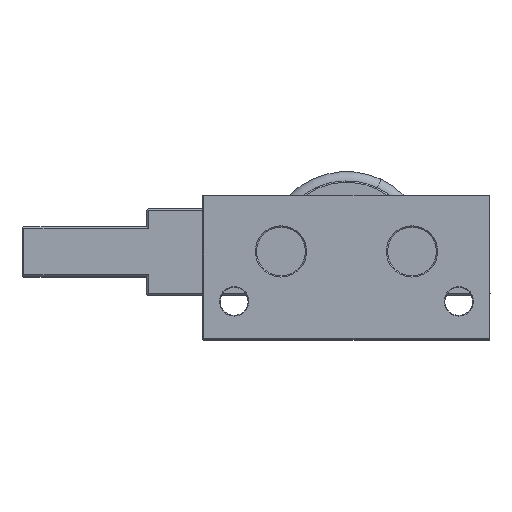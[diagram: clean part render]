
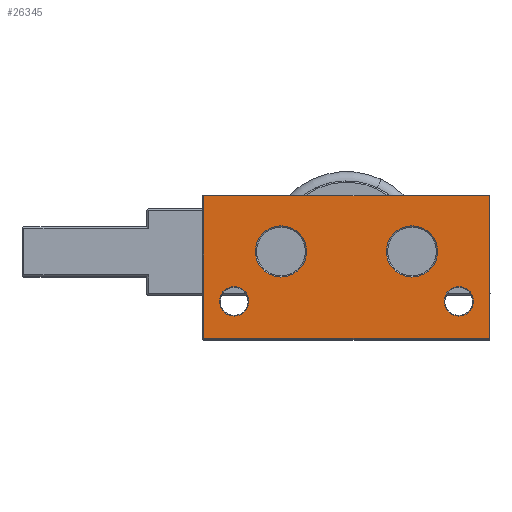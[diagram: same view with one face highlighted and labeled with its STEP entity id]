
A CAD part, top view. The second image highlights one B-rep face of the part: STEP entity #26345.
In plain terms, the highlighted planar face has unit normal (0, 0, 1).
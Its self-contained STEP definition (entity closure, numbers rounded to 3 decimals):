
#433 = DIRECTION ( 'NONE',  ( 0., 0., -1. ) ) ;
#578 = VECTOR ( 'NONE', #13726, 1000. ) ;
#749 = CARTESIAN_POINT ( 'NONE',  ( -18., 6., 120. ) ) ;
#1019 = CARTESIAN_POINT ( 'NONE',  ( -20.35, 6., 120. ) ) ;
#1797 = DIRECTION ( 'NONE',  ( 0., 0., -1. ) ) ;
#2261 = CARTESIAN_POINT ( 'NONE',  ( -22.9, 0.1, 120. ) ) ;
#2327 = FACE_OUTER_BOUND ( 'NONE', #6874, .T. ) ;
#2551 = ORIENTED_EDGE ( 'NONE', *, *, #26809, .T. ) ;
#2838 = CARTESIAN_POINT ( 'NONE',  ( -14.6, 14., 120. ) ) ;
#2895 = EDGE_CURVE ( 'NONE', #6082, #30914, #28503, .T. ) ;
#3278 = DIRECTION ( 'NONE',  ( 0., 0., -1. ) ) ;
#3307 = DIRECTION ( 'NONE',  ( 0., 0., -1. ) ) ;
#3483 = DIRECTION ( 'NONE',  ( -1., 0., 0. ) ) ;
#3704 = CARTESIAN_POINT ( 'NONE',  ( 22.9, 23., 120. ) ) ;
#4081 = VERTEX_POINT ( 'NONE', #2838 ) ;
#4136 = CARTESIAN_POINT ( 'NONE',  ( -22.9, 22.9, 120. ) ) ;
#4710 = CARTESIAN_POINT ( 'NONE',  ( 14.6, 14., 120. ) ) ;
#5023 = VERTEX_POINT ( 'NONE', #20085 ) ;
#5288 = LINE ( 'NONE', #9094, #578 ) ;
#5607 = ORIENTED_EDGE ( 'NONE', *, *, #33977, .T. ) ;
#6082 = VERTEX_POINT ( 'NONE', #30326 ) ;
#6138 = DIRECTION ( 'NONE',  ( -1., 0., 0. ) ) ;
#6256 = DIRECTION ( 'NONE',  ( 0., 0., -1. ) ) ;
#6294 = CARTESIAN_POINT ( 'NONE',  ( 10.5, 14., 120. ) ) ;
#6487 = ORIENTED_EDGE ( 'NONE', *, *, #33462, .T. ) ;
#6687 = EDGE_LOOP ( 'NONE', ( #29275, #17276 ) ) ;
#6733 = CARTESIAN_POINT ( 'NONE',  ( 10.5, 14., 120. ) ) ;
#6874 = EDGE_LOOP ( 'NONE', ( #17588, #26423, #15914, #18890 ) ) ;
#7195 = LINE ( 'NONE', #3704, #27856 ) ;
#7923 = EDGE_CURVE ( 'NONE', #31936, #34058, #5288, .T. ) ;
#8503 = AXIS2_PLACEMENT_3D ( 'NONE', #31122, #15007, #33824 ) ;
#8817 = AXIS2_PLACEMENT_3D ( 'NONE', #19487, #3278, #22159 ) ;
#9094 = CARTESIAN_POINT ( 'NONE',  ( -22.9, 0., 120. ) ) ;
#9454 = DIRECTION ( 'NONE',  ( -1., 0., 0. ) ) ;
#9470 = EDGE_CURVE ( 'NONE', #34058, #24507, #31460, .T. ) ;
#9589 = FACE_BOUND ( 'NONE', #35083, .T. ) ;
#9685 = EDGE_CURVE ( 'NONE', #21733, #27067, #28878, .T. ) ;
#10339 = EDGE_CURVE ( 'NONE', #34824, #5023, #27605, .T. ) ;
#11651 = CIRCLE ( 'NONE', #18985, 4.1 ) ;
#12764 = AXIS2_PLACEMENT_3D ( 'NONE', #749, #19695, #3483 ) ;
#12827 = AXIS2_PLACEMENT_3D ( 'NONE', #32733, #433, #19404 ) ;
#13118 = CARTESIAN_POINT ( 'NONE',  ( 22.9, 0.1, 120. ) ) ;
#13491 = DIRECTION ( 'NONE',  ( 0., 0., -1. ) ) ;
#13643 = EDGE_LOOP ( 'NONE', ( #5607, #25434 ) ) ;
#13726 = DIRECTION ( 'NONE',  ( 0., -1., 0. ) ) ;
#13823 = EDGE_CURVE ( 'NONE', #30914, #6082, #27913, .T. ) ;
#14619 = VERTEX_POINT ( 'NONE', #17096 ) ;
#14821 = CARTESIAN_POINT ( 'NONE',  ( 23., 0.1, 120. ) ) ;
#15007 = DIRECTION ( 'NONE',  ( 0., 0., -1. ) ) ;
#15914 = ORIENTED_EDGE ( 'NONE', *, *, #9470, .T. ) ;
#16797 = FACE_BOUND ( 'NONE', #6687, .T. ) ;
#17096 = CARTESIAN_POINT ( 'NONE',  ( -6.4, 14., 120. ) ) ;
#17276 = ORIENTED_EDGE ( 'NONE', *, *, #32623, .T. ) ;
#17497 = DIRECTION ( 'NONE',  ( 1., 0., 0. ) ) ;
#17588 = ORIENTED_EDGE ( 'NONE', *, *, #32370, .T. ) ;
#17619 = FACE_BOUND ( 'NONE', #13643, .T. ) ;
#17987 = VECTOR ( 'NONE', #18455, 1000. ) ;
#18058 = CARTESIAN_POINT ( 'NONE',  ( 18., 6., 120. ) ) ;
#18448 = FACE_BOUND ( 'NONE', #20558, .T. ) ;
#18455 = DIRECTION ( 'NONE',  ( -1., 0., 0. ) ) ;
#18890 = ORIENTED_EDGE ( 'NONE', *, *, #20051, .T. ) ;
#18985 = AXIS2_PLACEMENT_3D ( 'NONE', #19516, #3307, #22190 ) ;
#19404 = DIRECTION ( 'NONE',  ( -1., 0., 0. ) ) ;
#19487 = CARTESIAN_POINT ( 'NONE',  ( 18., 6., 120. ) ) ;
#19516 = CARTESIAN_POINT ( 'NONE',  ( -10.5, 14., 120. ) ) ;
#19590 = AXIS2_PLACEMENT_3D ( 'NONE', #6733, #25513, #9454 ) ;
#19695 = DIRECTION ( 'NONE',  ( 0., 0., -1. ) ) ;
#20051 = EDGE_CURVE ( 'NONE', #24507, #23106, #7195, .T. ) ;
#20085 = CARTESIAN_POINT ( 'NONE',  ( -15.65, 6., 120. ) ) ;
#20558 = EDGE_LOOP ( 'NONE', ( #21896, #25230 ) ) ;
#20753 = DIRECTION ( 'NONE',  ( -1., 0., 0. ) ) ;
#21035 = CARTESIAN_POINT ( 'NONE',  ( -23., 22.9, 120. ) ) ;
#21635 = CARTESIAN_POINT ( 'NONE',  ( 20.35, 6., 120. ) ) ;
#21733 = VERTEX_POINT ( 'NONE', #21635 ) ;
#21749 = CIRCLE ( 'NONE', #8817, 2.35 ) ;
#21896 = ORIENTED_EDGE ( 'NONE', *, *, #13823, .T. ) ;
#22159 = DIRECTION ( 'NONE',  ( -1., 0., 0. ) ) ;
#22190 = DIRECTION ( 'NONE',  ( -1., 0., 0. ) ) ;
#22434 = CARTESIAN_POINT ( 'NONE',  ( 15.65, 6., 120. ) ) ;
#22471 = DIRECTION ( 'NONE',  ( 0., 1., 0. ) ) ;
#23106 = VERTEX_POINT ( 'NONE', #29069 ) ;
#24475 = AXIS2_PLACEMENT_3D ( 'NONE', #6294, #6256, #6138 ) ;
#24507 = VERTEX_POINT ( 'NONE', #13118 ) ;
#25230 = ORIENTED_EDGE ( 'NONE', *, *, #2895, .T. ) ;
#25434 = ORIENTED_EDGE ( 'NONE', *, *, #10339, .T. ) ;
#25513 = DIRECTION ( 'NONE',  ( 0., 0., -1. ) ) ;
#25909 = LINE ( 'NONE', #21035, #17987 ) ;
#26228 = AXIS2_PLACEMENT_3D ( 'NONE', #18058, #1797, #20753 ) ;
#26345 = ADVANCED_FACE ( 'NONE', ( #18448, #9589, #17619, #16797, #2327 ), #30142, .F. ) ;
#26423 = ORIENTED_EDGE ( 'NONE', *, *, #7923, .T. ) ;
#26809 = EDGE_CURVE ( 'NONE', #4081, #14619, #30698, .T. ) ;
#27067 = VERTEX_POINT ( 'NONE', #22434 ) ;
#27605 = CIRCLE ( 'NONE', #29226, 2.35 ) ;
#27856 = VECTOR ( 'NONE', #22471, 1000. ) ;
#27913 = CIRCLE ( 'NONE', #19590, 4.1 ) ;
#28503 = CIRCLE ( 'NONE', #24475, 4.1 ) ;
#28878 = CIRCLE ( 'NONE', #26228, 2.35 ) ;
#29069 = CARTESIAN_POINT ( 'NONE',  ( 22.9, 22.9, 120. ) ) ;
#29226 = AXIS2_PLACEMENT_3D ( 'NONE', #29573, #13491, #32298 ) ;
#29275 = ORIENTED_EDGE ( 'NONE', *, *, #9685, .T. ) ;
#29573 = CARTESIAN_POINT ( 'NONE',  ( -18., 6., 120. ) ) ;
#30142 = PLANE ( 'NONE',  #12827 ) ;
#30326 = CARTESIAN_POINT ( 'NONE',  ( 6.4, 14., 120. ) ) ;
#30698 = CIRCLE ( 'NONE', #8503, 4.1 ) ;
#30914 = VERTEX_POINT ( 'NONE', #4710 ) ;
#31122 = CARTESIAN_POINT ( 'NONE',  ( -10.5, 14., 120. ) ) ;
#31460 = LINE ( 'NONE', #14821, #32327 ) ;
#31936 = VERTEX_POINT ( 'NONE', #4136 ) ;
#32298 = DIRECTION ( 'NONE',  ( -1., 0., 0. ) ) ;
#32327 = VECTOR ( 'NONE', #17497, 1000. ) ;
#32370 = EDGE_CURVE ( 'NONE', #23106, #31936, #25909, .T. ) ;
#32623 = EDGE_CURVE ( 'NONE', #27067, #21733, #21749, .T. ) ;
#32725 = CIRCLE ( 'NONE', #12764, 2.35 ) ;
#32733 = CARTESIAN_POINT ( 'NONE',  ( -23., 0., 120. ) ) ;
#33462 = EDGE_CURVE ( 'NONE', #14619, #4081, #11651, .T. ) ;
#33824 = DIRECTION ( 'NONE',  ( -1., 0., 0. ) ) ;
#33977 = EDGE_CURVE ( 'NONE', #5023, #34824, #32725, .T. ) ;
#34058 = VERTEX_POINT ( 'NONE', #2261 ) ;
#34824 = VERTEX_POINT ( 'NONE', #1019 ) ;
#35083 = EDGE_LOOP ( 'NONE', ( #6487, #2551 ) ) ;
